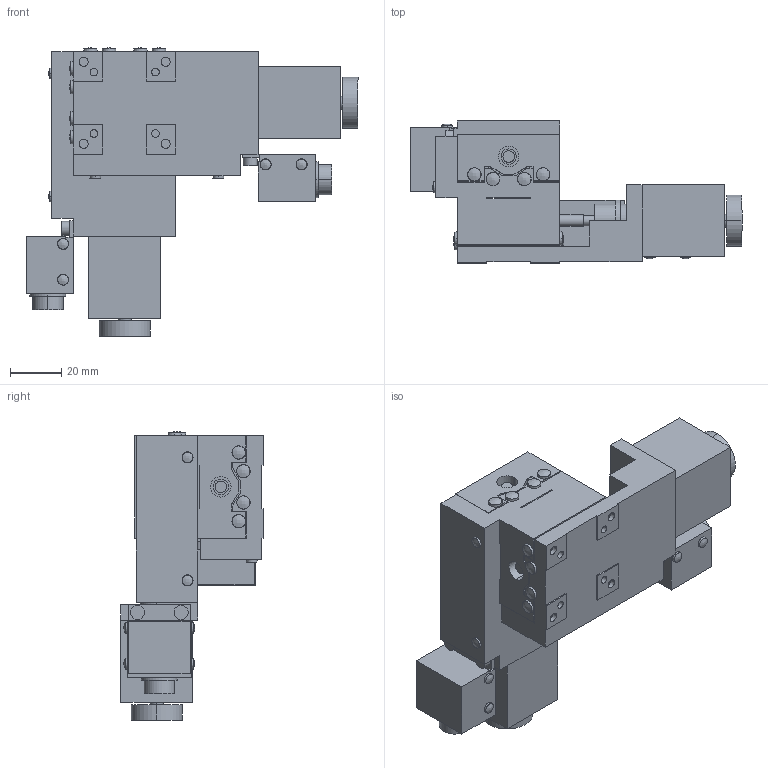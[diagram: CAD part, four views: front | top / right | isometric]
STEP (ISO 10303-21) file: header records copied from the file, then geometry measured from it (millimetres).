
FILE_DESCRIPTION (( 'STEP AP203' ), '1' );
FILE_NAME ('ALD-4011-G0M.STEP', '2010-12-20T07:48:39', ( ' ' ), ( ' ' ), 'SwSTEP 2.0', 'SolidWorks 2010', '' );
FILE_SCHEMA (( 'CONFIG_CONTROL_DESIGN' ));
Length unit declared in the file: millimetre
Products named in the file (4): ALD-4011-G0M; ALD-4011-G0M-1; ALD-4011-G0M-2; ALD-4011-G0M-3
Assembly tree (3 placements, depth 2):
  ALD-4011-G0M
    ALD-4011-G0M-2
    ALD-4011-G0M-3
    ALD-4011-G0M-1
Bounding box: 129.5 x 55.5 x 112.44 mm (x, y, z)
Volume: 199864.7 mm3; surface area: 68499.1 mm2
Topology: 3 solids, 13 shells, 510 faces, 1210 edges, 790 vertices
Faces by surface type: plane 256, cylinder 158, cone 68, bspline 28
Entity records: 20680 total; most frequent: CARTESIAN_POINT 8264, DIRECTION 2518, ORIENTED_EDGE 2404, EDGE_CURVE 1202, AXIS2_PLACEMENT_3D 892, VERTEX_POINT 790, LINE 734, VECTOR 734
